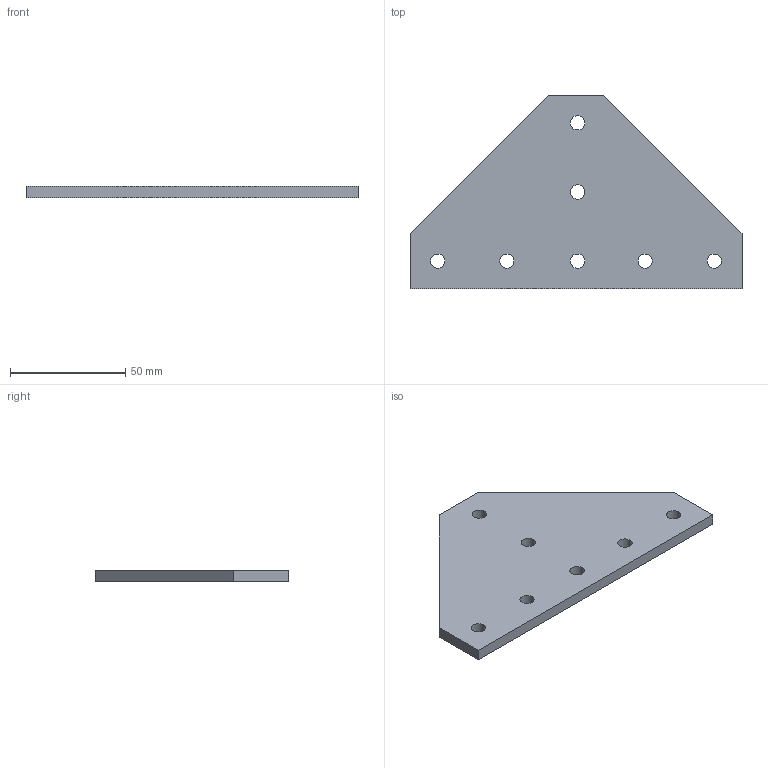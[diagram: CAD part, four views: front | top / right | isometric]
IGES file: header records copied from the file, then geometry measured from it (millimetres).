
Global section: file name: C:\Documents and Settings\Administrator\Desktop\Transfer Temp\bsf-30461.igs; native system: AutoDesk Inventor R2.0 ; preprocessor: AutoDesk Inventor Iges Exporter R2.0; author: No Author specified; organization: No Organization specified; date: 20011227.203818; units: millimetre
Bounding box: 144 x 84 x 5 mm (x, y, z)
Surface area: 19179.5 mm2 (no closed solid volume)
Topology: 0 solids, 0 shells, 22 faces, 120 edges, 120 vertices
Faces by surface type: bspline 22
